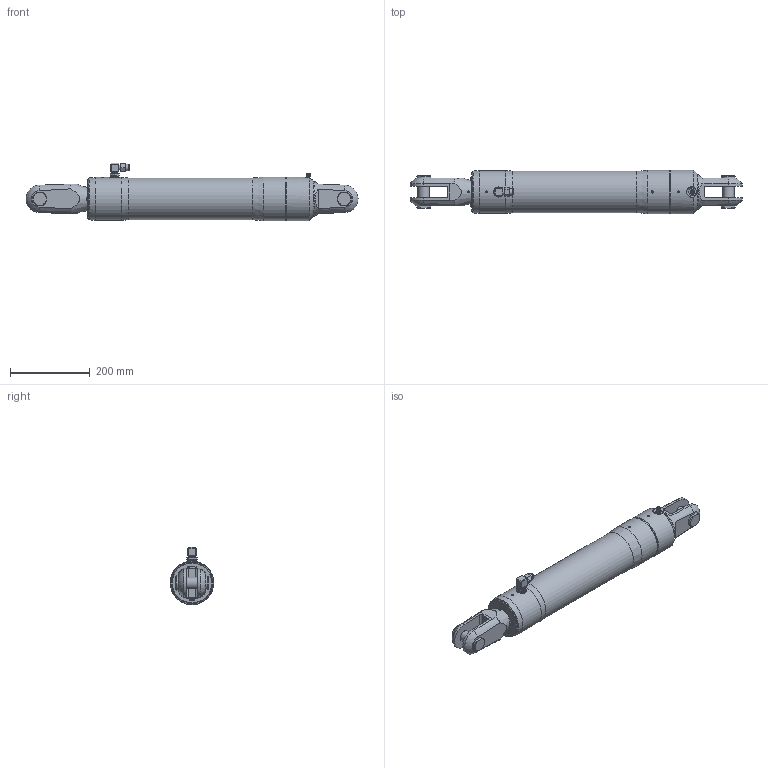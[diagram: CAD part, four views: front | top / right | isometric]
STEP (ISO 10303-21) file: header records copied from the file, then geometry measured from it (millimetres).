
FILE_DESCRIPTION(/* description */ (''),/* implementation_level */ '2;1');
FILE_NAME(/* name */ 'Q:\AA BRAND HYDRAULICS\HYDRAULICS FAMILY DIRECTORY\HYDRAULICS\CYLINDERS\RAMS\STAINLESS - STANDARD SINGLE ACTING (-0006 To -0260)\RSS-0048-S0300-NP-71\RSS-0048-S0300-NP-71 (Closed).stp',/* time_stamp */ '2018-02-07T13:40:41+00:00',/* author */ ('Lorena'),/* organization */ (''),/* preprocessor_version */ 'ST-DEVELOPER v17',/* originating_system */ 'Autodesk Inventor 2018',/* authorisation */ '');
FILE_SCHEMA (('AUTOMOTIVE_DESIGN { 1 0 10303 214 3 1 1 }'));
Length unit declared in the file: millimetre
Products named in the file (1): RSS-0048-S0300-NP-71 (Closed)
Bounding box: 830.87 x 109.2 x 143.75 mm (x, y, z)
Volume: 5777971.7 mm3; surface area: 296685.6 mm2
Topology: 2 solids, 6 shells, 1769 faces, 4769 edges, 3157 vertices
Faces by surface type: plane 999, bspline 574, cone 111, cylinder 77, sphere 4, torus 4
Full cylindrical faces by diameter (mm): 4 x1, 4.134 x1, 5 x1, 6 x2, 6.5 x2, 7 x1, 7.5 x1, 8.1 x1, 9 x1, 10 x2, 14 x1, 14.35 x1, 14.662 x1, 15 x2, 15.662 x1, 16 x2, 16.662 x2, 18 x2, 21.4 x3, 25 x1, 26 x1, 28 x1, 28.58 x2, 35.725 x2, 102.6 x1, 104.2 x1, 107.2 x1, 108.2 x1, 109.2 x2
Entity records: 63245 total; most frequent: CARTESIAN_POINT 21095, ORIENTED_EDGE 9522, DIRECTION 6235, EDGE_CURVE 4761, VERTEX_POINT 3159, LINE 2957, VECTOR 2957, EDGE_LOOP 1936
